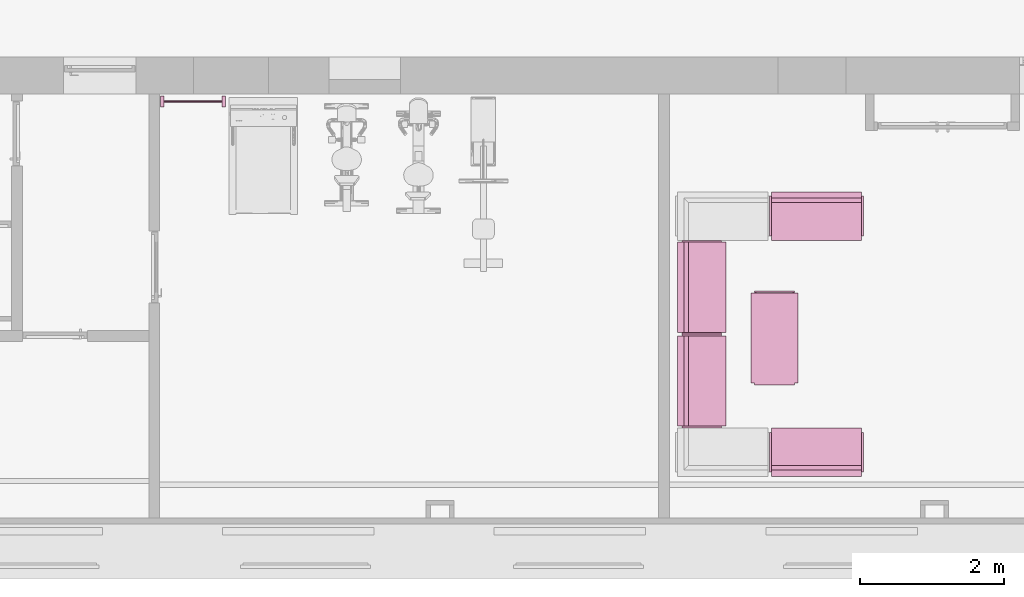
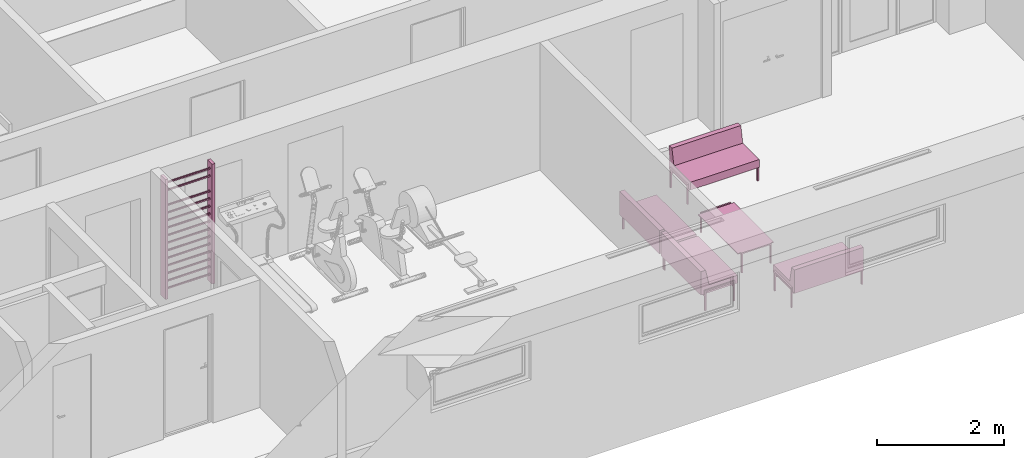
# One storey, part 19 of 23: 6 furnishings.
"""IFC2X3 building model written with IfcOpenShell, lengths in millimetres."""

import ifcopenshell
import ifcopenshell.guid

model = None  # the IFC model being written
_history = None  # IfcOwnerHistory: only IFC2X3 demands one
_inside = {}  # id of a spatial element -> (the spatial element, [elements in it])
_under = {}  # id of a project, library or spatial element -> (it, [spatial elements below it])
_declared = {}  # id of a project -> (the project, [libraries it declares])
_typed = {}  # id of a type object -> (the type object, [elements of that type])
_made_of = {}  # id of a material, layer set ... -> (it, [elements and type objects made of it])


def new_model(schema):
    """Start an empty IFC model of exactly this schema.

    Asked for "IFC4X3", IfcOpenShell would pick the latest addendum, in which some entities
    have other attributes; the version numbers below select the first issue.
    IFC2X3 requires an IfcOwnerHistory on every rooted entity: one is made here for all.
    """
    global model, _history
    if schema == "IFC4X3":
        model = ifcopenshell.file(schema_version=(4, 3, 0, 0))
    else:
        model = ifcopenshell.file(schema=schema)
    _inside.clear()
    _under.clear()
    _declared.clear()
    _typed.clear()
    _made_of.clear()
    _history = None
    if model.schema == "IFC2X3":
        org = make("IfcOrganization", Name="unknown")
        user = make(
            "IfcPersonAndOrganization",
            ThePerson=make("IfcPerson", FamilyName="unknown"),
            TheOrganization=org,
        )
        app = make(
            "IfcApplication",
            ApplicationDeveloper=org,
            Version="unknown",
            ApplicationFullName="unknown",
            ApplicationIdentifier="unknown",
        )
        _history = make(
            "IfcOwnerHistory",
            OwningUser=user,
            OwningApplication=app,
            ChangeAction="ADDED",
            CreationDate=0,
        )
    return model


def make(cls, **values):
    """One entity of the class cls with the attributes given. An attribute that is None is left unset."""
    return model.create_entity(
        cls, **{name: value for name, value in values.items() if value is not None}
    )


def entity(cls, *values):
    """Any entity or typed value of the class cls, its attributes in the order of the schema. None: left unset."""
    e = model.create_entity(cls)
    for i, value in enumerate(values):
        if value is not None:
            e[i] = value
    return e


def rooted(cls, **values):
    """An entity with a GlobalId (a new one), such as an element, a storey or a relation."""
    return make(cls, GlobalId=ifcopenshell.guid.new(), OwnerHistory=_history, **values)


def si_unit(unit_type, name, prefix=None):
    """IfcSIUnit, for example si_unit("LENGTHUNIT", "METRE", prefix="MILLI")."""
    return make("IfcSIUnit", UnitType=unit_type, Prefix=prefix, Name=name)


def converted_unit(unit_type, name, factor, base, dimensions=None, offset=None):
    """IfcConversionBasedUnit, such as the inch: factor (a typed value) times the base unit."""
    return make(
        "IfcConversionBasedUnit"
        if offset is None
        else "IfcConversionBasedUnitWithOffset",
        ConversionOffset=offset,
        Dimensions=None
        if dimensions is None
        else entity("IfcDimensionalExponents", *dimensions),
        UnitType=unit_type,
        Name=name,
        ConversionFactor=make(
            "IfcMeasureWithUnit", ValueComponent=factor, UnitComponent=base
        ),
    )


def derived_unit(unit_type, elements):
    """IfcDerivedUnit: a product of units, each with its exponent."""
    return make(
        "IfcDerivedUnit",
        Elements=[
            make("IfcDerivedUnitElement", Unit=unit, Exponent=power)
            for unit, power in elements
        ],
        UnitType=unit_type,
    )


def assignment(units):
    """IfcUnitAssignment: the units of a project."""
    return None if units is None else make("IfcUnitAssignment", Units=units)


def point(xyz):
    """IfcCartesianPoint."""
    return None if xyz is None else make("IfcCartesianPoint", Coordinates=xyz)


def direction(xyz):
    """IfcDirection."""
    return None if xyz is None else make("IfcDirection", DirectionRatios=xyz)


def frame(location, z_axis=None, x_axis=None):
    """IfcAxis2Placement3D, a coordinate frame: its origin and axes. An axis left out is left unset."""
    return make(
        "IfcAxis2Placement3D",
        Location=point(location),
        Axis=direction(z_axis),
        RefDirection=direction(x_axis),
    )


def frame_2d(location, x_axis=None):
    """IfcAxis2Placement2D, a coordinate frame in the plane: its origin and x axis."""
    return make(
        "IfcAxis2Placement2D", Location=point(location), RefDirection=direction(x_axis)
    )


def origin():
    """The frame at (0, 0, 0) with its axes left unset."""
    return frame((0.0, 0.0, 0.0))


def origin_2d_with_axis():
    """The frame at (0, 0) in the plane with the x axis (1, 0) written out."""
    return frame_2d((0.0, 0.0), x_axis=(1.0, 0.0))


def place(relative_to, where):
    """IfcLocalPlacement: puts the frame where relative to a parent placement (None: the world)."""
    return make(
        "IfcLocalPlacement", PlacementRelTo=relative_to, RelativePlacement=where
    )


def context(
    kind, dimensions, precision=None, world=None, true_north=None, identifier=None
):
    """IfcGeometricRepresentationContext, for example the 3D "Model" context."""
    return make(
        "IfcGeometricRepresentationContext",
        ContextIdentifier=identifier,
        ContextType=kind,
        CoordinateSpaceDimension=dimensions,
        Precision=precision,
        WorldCoordinateSystem=world,
        TrueNorth=true_north,
    )


def subcontext(parent, identifier, kind, view, scale=None):
    """IfcGeometricRepresentationSubContext, for example "Body" below "Model"."""
    return make(
        "IfcGeometricRepresentationSubContext",
        ContextIdentifier=identifier,
        ContextType=kind,
        ParentContext=parent,
        TargetScale=scale,
        TargetView=view,
    )


def project(units=None, contexts=None):
    """IfcProject with its units and contexts."""
    return rooted(
        "IfcProject",
        Name="project",
        RepresentationContexts=contexts,
        UnitsInContext=assignment(units),
    )


def spatial(cls, under=None, at=None, **own):
    """A site, building, storey or space (cls), placed at a placement, below another one or the project."""
    s = rooted(cls, ObjectPlacement=at, **own)
    if under is not None:
        _under.setdefault(under.id(), (under, []))[1].append(s)
    return s


def polyline(points):
    """IfcPolyline through the points."""
    return make("IfcPolyline", Points=[point(p) for p in points])


def circle_curve(where, radius):
    """IfcCircle in the frame where."""
    return make("IfcCircle", Position=where, Radius=radius)


def parameter(value):
    """IfcParameterValue: where a trimmed curve begins or ends, as a parameter of its basis curve."""
    return model.create_entity("IfcParameterValue", value)


def trimmed(basis, trim1, trim2, sense, master):
    """IfcTrimmedCurve: the piece of a basis curve between two trims."""
    return make(
        "IfcTrimmedCurve",
        BasisCurve=basis,
        Trim1=trim1,
        Trim2=trim2,
        SenseAgreement=sense,
        MasterRepresentation=master,
    )


def segment(curve, same_sense, transition):
    """IfcCompositeCurveSegment."""
    return make(
        "IfcCompositeCurveSegment",
        Transition=transition,
        SameSense=same_sense,
        ParentCurve=curve,
    )


def composite_curve(segments, self_intersect=None):
    """IfcCompositeCurve: segments joined end to end."""
    return make("IfcCompositeCurve", Segments=segments, SelfIntersect=self_intersect)


def profile(cls, at=None, kind="AREA", **sizes):
    """A parametric profile (cls). Its sizes go by their IFC names, for example OverallWidth=200.0."""
    return make(cls, ProfileType=kind, Position=at, **sizes)


def rectangle(**sizes):
    """IfcRectangleProfileDef."""
    return profile("IfcRectangleProfileDef", **sizes)


def outline(outer, holes=None, kind="AREA"):
    """IfcArbitraryClosedProfileDef: a profile drawn as a closed curve; with holes, ...WithVoids."""
    if holes is None:
        return make("IfcArbitraryClosedProfileDef", ProfileType=kind, OuterCurve=outer)
    return make(
        "IfcArbitraryProfileDefWithVoids",
        ProfileType=kind,
        OuterCurve=outer,
        InnerCurves=holes,
    )


def extrude(swept, where, along, depth):
    """IfcExtrudedAreaSolid: the profile swept, set in the frame where, extruded along a direction by depth."""
    return make(
        "IfcExtrudedAreaSolid",
        SweptArea=swept,
        Position=where,
        ExtrudedDirection=direction(along),
        Depth=depth,
    )


def shape(context_of_items, identifier, shape_type, items):
    """IfcShapeRepresentation: the items that make up one representation, for example the "Body"."""
    return make(
        "IfcShapeRepresentation",
        ContextOfItems=context_of_items,
        RepresentationIdentifier=identifier,
        RepresentationType=shape_type,
        Items=items,
    )


def source(mapping_origin, context_of_items, identifier, shape_type, items):
    """IfcRepresentationMap: a shape defined once, which mapped items show again and again."""
    return make(
        "IfcRepresentationMap",
        MappingOrigin=mapping_origin,
        MappedRepresentation=shape(context_of_items, identifier, shape_type, items),
    )


def transform(
    local_origin,
    x_axis=None,
    y_axis=None,
    z_axis=None,
    scale=None,
    scale2=None,
    scale3=None,
    uniform=True,
):
    """IfcCartesianTransformationOperator3D, or its non-uniform kind. x_axis, y_axis, z_axis: its Axis1, 2, 3."""
    if uniform:
        return make(
            "IfcCartesianTransformationOperator3D",
            Axis1=direction(x_axis),
            Axis2=direction(y_axis),
            LocalOrigin=point(local_origin),
            Scale=scale,
            Axis3=direction(z_axis),
        )
    return make(
        "IfcCartesianTransformationOperator3DnonUniform",
        Axis1=direction(x_axis),
        Axis2=direction(y_axis),
        LocalOrigin=point(local_origin),
        Scale=scale,
        Axis3=direction(z_axis),
        Scale2=scale2,
        Scale3=scale3,
    )


def mapped(mapping_source, mapping_target):
    """IfcMappedItem: shows the shape of a source again, moved by a transform."""
    return make(
        "IfcMappedItem", MappingSource=mapping_source, MappingTarget=mapping_target
    )


def material(Name=None, Category=None):
    """IfcMaterial."""
    return make("IfcMaterial", Name=Name, Category=Category)


def material_list(materials):
    """IfcMaterialList."""
    return make("IfcMaterialList", Materials=materials)


def made_of(thing, what):
    """Note that an element or type object is made of a material, layer set ...; save() writes the relation."""
    if what is not None:
        _made_of.setdefault(what.id(), (what, []))[1].append(thing)
    return thing


def type_object(cls, material=None, **own):
    """A type object (cls), such as IfcWallType, which elements share."""
    return made_of(rooted(cls, **own), material)


def type_shapes(of_type, sources):
    """Give a type object the sources (RepresentationMaps) that its elements show as mapped items."""
    of_type.RepresentationMaps = sources


def element(
    cls,
    number,
    at=None,
    inside=None,
    cuts=None,
    type_object=None,
    material=None,
    context=None,
    identifier="Body",
    shape_type=None,
    held_by="IfcProductDefinitionShape",
    body=None,
    shapes=None,
    **own,
):
    """One element of the class cls, such as IfcWall. Its Tag is "e" and its number.

    at: its placement. inside: the storey or other place that contains it. cuts: it is an
    opening in that element (IfcRelVoidsElement). A single representation is given by context,
    identifier, shape_type and body (its items); several are given by shapes. held_by: the class
    of the entity that holds the representations. save() writes the other relations.
    """
    e = rooted(cls, Tag="e%d" % number, ObjectPlacement=at, **own)
    if body is not None:
        shapes = [shape(context, identifier, shape_type, body)]
    if shapes is not None:
        e.Representation = make(held_by, Representations=shapes)
    if inside is not None:
        _inside.setdefault(inside.id(), (inside, []))[1].append(e)
    if cuts is not None:
        rooted(
            "IfcRelVoidsElement", RelatingBuildingElement=cuts, RelatedOpeningElement=e
        )
    if type_object is not None:
        _typed.setdefault(type_object.id(), (type_object, []))[1].append(e)
    return made_of(e, material)


def aggregate(whole, parts):
    """IfcRelAggregates: a whole, such as a stair, and the parts it consists of."""
    return rooted("IfcRelAggregates", RelatingObject=whole, RelatedObjects=parts)


def save(model, path):
    """Write the relations noted so far, then the file.

    IfcRelAggregates (storeys below a building ...), IfcRelContainedInSpatialStructure (elements
    in a storey), IfcRelDefinesByType, IfcRelAssociatesMaterial and IfcRelDeclares: one each for
    every whole, place, type object, material and project.
    """
    for whole, parts in _under.values():
        aggregate(whole, parts)
    for where, things in _inside.values():
        rooted(
            "IfcRelContainedInSpatialStructure",
            RelatedElements=things,
            RelatingStructure=where,
        )
    for kind, things in _typed.values():
        rooted("IfcRelDefinesByType", RelatedObjects=things, RelatingType=kind)
    for what, things in _made_of.values():
        rooted("IfcRelAssociatesMaterial", RelatedObjects=things, RelatingMaterial=what)
    for by, libraries in _declared.values():
        rooted("IfcRelDeclares", RelatingContext=by, RelatedDefinitions=libraries)
    model.write(path)


model = new_model("IFC2X3")

# Units and contexts
model_context = context("Model", 3, precision=0.01, world=origin(), true_north=direction((6.12303176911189e-17, 1.0)))
body_context = subcontext(model_context, "Body", "Model", "MODEL_VIEW")
ifc_project = project(units=[si_unit("LENGTHUNIT", "METRE", prefix="MILLI"), si_unit("AREAUNIT", "SQUARE_METRE"), si_unit("VOLUMEUNIT", "CUBIC_METRE"), converted_unit("PLANEANGLEUNIT", "DEGREE", entity("IfcRatioMeasure", 0.0174532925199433), si_unit("PLANEANGLEUNIT", "RADIAN"), dimensions=[0, 0, 0, 0, 0, 0, 0]), si_unit("MASSUNIT", "GRAM", prefix="KILO"), derived_unit("MASSDENSITYUNIT", [(si_unit("MASSUNIT", "GRAM", prefix="KILO"), 1), (si_unit("LENGTHUNIT", "METRE"), -3)]), si_unit("TIMEUNIT", "SECOND"), si_unit("FREQUENCYUNIT", "HERTZ"), si_unit("THERMODYNAMICTEMPERATUREUNIT", "DEGREE_CELSIUS"), derived_unit("THERMALTRANSMITTANCEUNIT", [(si_unit("MASSUNIT", "GRAM", prefix="KILO"), 1), (si_unit("THERMODYNAMICTEMPERATUREUNIT", "KELVIN"), -1), (si_unit("TIMEUNIT", "SECOND"), -3)]), derived_unit("VOLUMETRICFLOWRATEUNIT", [(si_unit("LENGTHUNIT", "METRE"), 3), (si_unit("TIMEUNIT", "SECOND"), -1)]), si_unit("ELECTRICCURRENTUNIT", "AMPERE"), si_unit("ELECTRICVOLTAGEUNIT", "VOLT"), si_unit("POWERUNIT", "WATT"), si_unit("FORCEUNIT", "NEWTON", prefix="KILO"), si_unit("ILLUMINANCEUNIT", "LUX"), si_unit("LUMINOUSFLUXUNIT", "LUMEN"), si_unit("LUMINOUSINTENSITYUNIT", "CANDELA"), derived_unit("USERDEFINED", [(si_unit("MASSUNIT", "GRAM", prefix="KILO"), -1), (si_unit("LENGTHUNIT", "METRE"), -2), (si_unit("TIMEUNIT", "SECOND"), 3), (si_unit("LUMINOUSFLUXUNIT", "LUMEN"), 1)]), derived_unit("LINEARVELOCITYUNIT", [(si_unit("LENGTHUNIT", "METRE"), 1), (si_unit("TIMEUNIT", "SECOND"), -1)]), si_unit("PRESSUREUNIT", "PASCAL"), derived_unit("USERDEFINED", [(si_unit("LENGTHUNIT", "METRE"), -2), (si_unit("MASSUNIT", "GRAM", prefix="KILO"), 1), (si_unit("TIMEUNIT", "SECOND"), -2)]), derived_unit("LINEARFORCEUNIT", [(si_unit("MASSUNIT", "GRAM", prefix="KILO"), 1), (si_unit("LENGTHUNIT", "METRE"), 1), (si_unit("TIMEUNIT", "SECOND"), -2), (si_unit("LENGTHUNIT", "METRE"), -1)]), derived_unit("PLANARFORCEUNIT", [(si_unit("MASSUNIT", "GRAM", prefix="KILO"), 1), (si_unit("LENGTHUNIT", "METRE"), 1), (si_unit("TIMEUNIT", "SECOND"), -2), (si_unit("LENGTHUNIT", "METRE"), -2)])], contexts=[model_context])

# Site, building, storey, space
site_placement = place(None, origin())
site = spatial("IfcSite", under=ifc_project, at=site_placement, Name="Default", CompositionType="ELEMENT")
building_placement = place(site_placement, origin())
building = spatial("IfcBuilding", under=site, at=building_placement, Name="SMA ARH", CompositionType="ELEMENT")
storey_placement = place(building_placement, frame((0.0, 0.0, -2800.0)))
storey = spatial("IfcBuildingStorey", under=building, at=storey_placement, Name="0 Sokkel", CompositionType="ELEMENT", Elevation=-2800.0)
space_1_placement = place(storey_placement, origin())
space_1 = spatial("IfcSpace", under=storey, at=space_1_placement, Name="0-3", CompositionType="ELEMENT", InteriorOrExteriorSpace="INTERNAL")

# Furnishing
furniture_type_1 = type_object("IfcFurnitureType", Name="varbsein 1,00x2.30:varbsein 1,00x2.30")
shared_shape_1 = source(origin(), body_context, "Body", "SweptSolid", [
    extrude(outline(composite_curve([segment(trimmed(circle_curve(frame_2d((0.0, 5.0), x_axis=(1.0, 0.0)), 15.0), [parameter(0.0)], [parameter(90.0000000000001)], True, "PARAMETER"), True, "CONTINUOUS"), segment(trimmed(circle_curve(frame_2d((0.0, 5.0), x_axis=(1.0, 0.0)), 15.0), [parameter(90.0000000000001)], [parameter(180.0)], True, "PARAMETER"), True, "CONTINUOUS"), segment(polyline([(-15.0, 5.0), (-15.0, -5.0)]), True, "CONTINUOUS"), segment(trimmed(circle_curve(frame_2d((0.0, -5.0), x_axis=(1.0, 0.0)), 15.0), [parameter(180.0)], [parameter(269.999999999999)], True, "PARAMETER"), True, "CONTINUOUS"), segment(trimmed(circle_curve(frame_2d((0.0, -5.0), x_axis=(1.0, 0.0)), 15.0), [parameter(270.0)], [parameter(0.0)], True, "PARAMETER"), True, "CONTINUOUS"), segment(polyline([(15.0, -5.0), (15.0, 5.0)]), True, "CONTINUOUS")], self_intersect=False)), frame((50.0, -75.0, 2180.0), z_axis=(1.0, 0.0, 0.0), x_axis=(0.0, -1.0, 0.0)), (0.0, 0.0, 1.0), 800.0),
    extrude(outline(composite_curve([segment(trimmed(circle_curve(frame_2d((0.0, 5.0), x_axis=(1.0, 0.0)), 15.0), [parameter(0.0)], [parameter(90.0000000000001)], True, "PARAMETER"), True, "CONTINUOUS"), segment(trimmed(circle_curve(frame_2d((0.0, 5.0), x_axis=(1.0, 0.0)), 15.0), [parameter(90.0000000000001)], [parameter(180.0)], True, "PARAMETER"), True, "CONTINUOUS"), segment(polyline([(-15.0, 5.0), (-15.0, -5.0)]), True, "CONTINUOUS"), segment(trimmed(circle_curve(frame_2d((0.0, -5.0), x_axis=(1.0, 0.0)), 15.0), [parameter(180.0)], [parameter(269.999999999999)], True, "PARAMETER"), True, "CONTINUOUS"), segment(trimmed(circle_curve(frame_2d((0.0, -5.0), x_axis=(1.0, 0.0)), 15.0), [parameter(270.0)], [parameter(0.0)], True, "PARAMETER"), True, "CONTINUOUS"), segment(polyline([(15.0, -5.0), (15.0, 5.0)]), True, "CONTINUOUS")], self_intersect=False)), frame((50.0, -75.0, 2035.0), z_axis=(1.0, 0.0, 0.0), x_axis=(0.0, -1.0, 0.0)), (0.0, 0.0, 1.0), 800.0),
    extrude(outline(composite_curve([segment(trimmed(circle_curve(frame_2d((0.0, 5.0), x_axis=(1.0, 0.0)), 15.0), [parameter(0.0)], [parameter(90.0000000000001)], True, "PARAMETER"), True, "CONTINUOUS"), segment(trimmed(circle_curve(frame_2d((0.0, 5.0), x_axis=(1.0, 0.0)), 15.0), [parameter(90.0000000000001)], [parameter(180.0)], True, "PARAMETER"), True, "CONTINUOUS"), segment(polyline([(-15.0, 5.0), (-15.0, -5.0)]), True, "CONTINUOUS"), segment(trimmed(circle_curve(frame_2d((0.0, -5.0), x_axis=(1.0, 0.0)), 15.0), [parameter(180.0)], [parameter(269.999999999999)], True, "PARAMETER"), True, "CONTINUOUS"), segment(trimmed(circle_curve(frame_2d((0.0, -5.0), x_axis=(1.0, 0.0)), 15.0), [parameter(270.0)], [parameter(0.0)], True, "PARAMETER"), True, "CONTINUOUS"), segment(polyline([(15.0, -5.0), (15.0, 5.0)]), True, "CONTINUOUS")], self_intersect=False)), frame((50.0, -75.0, 1745.0), z_axis=(1.0, 0.0, 0.0), x_axis=(0.0, -1.0, 0.0)), (0.0, 0.0, 1.0), 800.0),
    extrude(outline(composite_curve([segment(trimmed(circle_curve(frame_2d((0.0, 5.0), x_axis=(1.0, 0.0)), 15.0), [parameter(0.0)], [parameter(90.0000000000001)], True, "PARAMETER"), True, "CONTINUOUS"), segment(trimmed(circle_curve(frame_2d((0.0, 5.0), x_axis=(1.0, 0.0)), 15.0), [parameter(90.0000000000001)], [parameter(180.0)], True, "PARAMETER"), True, "CONTINUOUS"), segment(polyline([(-15.0, 5.0), (-15.0, -5.0)]), True, "CONTINUOUS"), segment(trimmed(circle_curve(frame_2d((0.0, -5.0), x_axis=(1.0, 0.0)), 15.0), [parameter(180.0)], [parameter(269.999999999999)], True, "PARAMETER"), True, "CONTINUOUS"), segment(trimmed(circle_curve(frame_2d((0.0, -5.0), x_axis=(1.0, 0.0)), 15.0), [parameter(270.0)], [parameter(0.0)], True, "PARAMETER"), True, "CONTINUOUS"), segment(polyline([(15.0, -5.0), (15.0, 5.0)]), True, "CONTINUOUS")], self_intersect=False)), frame((50.0, -75.0, 1600.0), z_axis=(1.0, 0.0, 0.0), x_axis=(0.0, -1.0, 0.0)), (0.0, 0.0, 1.0), 800.0),
    extrude(outline(composite_curve([segment(trimmed(circle_curve(frame_2d((0.0, 5.0), x_axis=(1.0, 0.0)), 15.0), [parameter(0.0)], [parameter(90.0000000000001)], True, "PARAMETER"), True, "CONTINUOUS"), segment(trimmed(circle_curve(frame_2d((0.0, 5.0), x_axis=(1.0, 0.0)), 15.0), [parameter(90.0000000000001)], [parameter(180.0)], True, "PARAMETER"), True, "CONTINUOUS"), segment(polyline([(-15.0, 5.0), (-15.0, -5.0)]), True, "CONTINUOUS"), segment(trimmed(circle_curve(frame_2d((0.0, -5.0), x_axis=(1.0, 0.0)), 15.0), [parameter(180.0)], [parameter(269.999999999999)], True, "PARAMETER"), True, "CONTINUOUS"), segment(trimmed(circle_curve(frame_2d((0.0, -5.0), x_axis=(1.0, 0.0)), 15.0), [parameter(270.0)], [parameter(0.0)], True, "PARAMETER"), True, "CONTINUOUS"), segment(polyline([(15.0, -5.0), (15.0, 5.0)]), True, "CONTINUOUS")], self_intersect=False)), frame((50.0, -75.0, 1455.0), z_axis=(1.0, 0.0, 0.0), x_axis=(0.0, -1.0, 0.0)), (0.0, 0.0, 1.0), 800.0),
    extrude(outline(composite_curve([segment(trimmed(circle_curve(frame_2d((0.0, 5.0), x_axis=(1.0, 0.0)), 15.0), [parameter(0.0)], [parameter(90.0000000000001)], True, "PARAMETER"), True, "CONTINUOUS"), segment(trimmed(circle_curve(frame_2d((0.0, 5.0), x_axis=(1.0, 0.0)), 15.0), [parameter(90.0000000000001)], [parameter(180.0)], True, "PARAMETER"), True, "CONTINUOUS"), segment(polyline([(-15.0, 5.0), (-15.0, -5.0)]), True, "CONTINUOUS"), segment(trimmed(circle_curve(frame_2d((0.0, -5.0), x_axis=(1.0, 0.0)), 15.0), [parameter(180.0)], [parameter(269.999999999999)], True, "PARAMETER"), True, "CONTINUOUS"), segment(trimmed(circle_curve(frame_2d((0.0, -5.0), x_axis=(1.0, 0.0)), 15.0), [parameter(270.0)], [parameter(0.0)], True, "PARAMETER"), True, "CONTINUOUS"), segment(polyline([(15.0, -5.0), (15.0, 5.0)]), True, "CONTINUOUS")], self_intersect=False)), frame((50.0, -75.0, 1310.0), z_axis=(1.0, 0.0, 0.0), x_axis=(0.0, -1.0, 0.0)), (0.0, 0.0, 1.0), 800.0),
    extrude(outline(composite_curve([segment(trimmed(circle_curve(frame_2d((0.0, 5.0), x_axis=(1.0, 0.0)), 15.0), [parameter(0.0)], [parameter(90.0000000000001)], True, "PARAMETER"), True, "CONTINUOUS"), segment(trimmed(circle_curve(frame_2d((0.0, 5.0), x_axis=(1.0, 0.0)), 15.0), [parameter(90.0000000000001)], [parameter(180.0)], True, "PARAMETER"), True, "CONTINUOUS"), segment(polyline([(-15.0, 5.0), (-15.0, -5.0)]), True, "CONTINUOUS"), segment(trimmed(circle_curve(frame_2d((0.0, -5.0), x_axis=(1.0, 0.0)), 15.0), [parameter(180.0)], [parameter(269.999999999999)], True, "PARAMETER"), True, "CONTINUOUS"), segment(trimmed(circle_curve(frame_2d((0.0, -5.0), x_axis=(1.0, 0.0)), 15.0), [parameter(270.0)], [parameter(359.999999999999)], True, "PARAMETER"), True, "CONTINUOUS"), segment(polyline([(15.0, -5.0), (15.0, 5.0)]), True, "CONTINUOUS")], self_intersect=False)), frame((50.0, -75.0, 1165.0), z_axis=(1.0, 0.0, 0.0), x_axis=(0.0, -1.0, 0.0)), (0.0, 0.0, 1.0), 800.0),
    extrude(outline(composite_curve([segment(trimmed(circle_curve(frame_2d((0.0, 5.0), x_axis=(1.0, 0.0)), 15.0), [parameter(0.0)], [parameter(90.0000000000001)], True, "PARAMETER"), True, "CONTINUOUS"), segment(trimmed(circle_curve(frame_2d((0.0, 5.0), x_axis=(1.0, 0.0)), 15.0), [parameter(90.0000000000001)], [parameter(180.0)], True, "PARAMETER"), True, "CONTINUOUS"), segment(polyline([(-15.0, 5.0), (-15.0, -5.0)]), True, "CONTINUOUS"), segment(trimmed(circle_curve(frame_2d((0.0, -5.0), x_axis=(1.0, 0.0)), 15.0), [parameter(180.0)], [parameter(269.999999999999)], True, "PARAMETER"), True, "CONTINUOUS"), segment(trimmed(circle_curve(frame_2d((0.0, -5.0), x_axis=(1.0, 0.0)), 15.0), [parameter(270.0)], [parameter(359.999999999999)], True, "PARAMETER"), True, "CONTINUOUS"), segment(polyline([(15.0, -5.0), (15.0, 5.0)]), True, "CONTINUOUS")], self_intersect=False)), frame((50.0, -75.0, 1020.0), z_axis=(1.0, 0.0, 0.0), x_axis=(0.0, -1.0, 0.0)), (0.0, 0.0, 1.0), 800.0),
    extrude(outline(composite_curve([segment(trimmed(circle_curve(frame_2d((0.0, 5.0), x_axis=(1.0, 0.0)), 15.0), [parameter(0.0)], [parameter(90.0000000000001)], True, "PARAMETER"), True, "CONTINUOUS"), segment(trimmed(circle_curve(frame_2d((0.0, 5.0), x_axis=(1.0, 0.0)), 15.0), [parameter(90.0000000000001)], [parameter(180.0)], True, "PARAMETER"), True, "CONTINUOUS"), segment(polyline([(-15.0, 5.0), (-15.0, -5.0)]), True, "CONTINUOUS"), segment(trimmed(circle_curve(frame_2d((0.0, -5.0), x_axis=(1.0, 0.0)), 15.0), [parameter(180.0)], [parameter(269.999999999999)], True, "PARAMETER"), True, "CONTINUOUS"), segment(trimmed(circle_curve(frame_2d((0.0, -5.0), x_axis=(1.0, 0.0)), 15.0), [parameter(270.0)], [parameter(359.999999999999)], True, "PARAMETER"), True, "CONTINUOUS"), segment(polyline([(15.0, -5.0), (15.0, 5.0)]), True, "CONTINUOUS")], self_intersect=False)), frame((50.0, -75.0, 875.0), z_axis=(1.0, 0.0, 0.0), x_axis=(0.0, -1.0, 0.0)), (0.0, 0.0, 1.0), 800.0),
    extrude(outline(composite_curve([segment(trimmed(circle_curve(frame_2d((0.0, 5.0), x_axis=(1.0, 0.0)), 15.0), [parameter(0.0)], [parameter(90.0000000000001)], True, "PARAMETER"), True, "CONTINUOUS"), segment(trimmed(circle_curve(frame_2d((0.0, 5.0), x_axis=(1.0, 0.0)), 15.0), [parameter(90.0000000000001)], [parameter(180.0)], True, "PARAMETER"), True, "CONTINUOUS"), segment(polyline([(-15.0, 5.0), (-15.0, -5.0)]), True, "CONTINUOUS"), segment(trimmed(circle_curve(frame_2d((0.0, -5.0), x_axis=(1.0, 0.0)), 15.0), [parameter(180.0)], [parameter(269.999999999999)], True, "PARAMETER"), True, "CONTINUOUS"), segment(trimmed(circle_curve(frame_2d((0.0, -5.0), x_axis=(1.0, 0.0)), 15.0), [parameter(270.0)], [parameter(359.999999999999)], True, "PARAMETER"), True, "CONTINUOUS"), segment(polyline([(15.0, -5.0), (15.0, 5.0)]), True, "CONTINUOUS")], self_intersect=False)), frame((50.0, -75.0, 730.0), z_axis=(1.0, 0.0, 0.0), x_axis=(0.0, -1.0, 0.0)), (0.0, 0.0, 1.0), 800.0),
    extrude(outline(composite_curve([segment(trimmed(circle_curve(frame_2d((0.0, 5.0), x_axis=(1.0, 0.0)), 15.0), [parameter(0.0)], [parameter(90.0000000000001)], True, "PARAMETER"), True, "CONTINUOUS"), segment(trimmed(circle_curve(frame_2d((0.0, 5.0), x_axis=(1.0, 0.0)), 15.0), [parameter(90.0000000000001)], [parameter(180.0)], True, "PARAMETER"), True, "CONTINUOUS"), segment(polyline([(-15.0, 5.0), (-15.0, -5.0)]), True, "CONTINUOUS"), segment(trimmed(circle_curve(frame_2d((0.0, -5.0), x_axis=(1.0, 0.0)), 15.0), [parameter(180.0)], [parameter(269.999999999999)], True, "PARAMETER"), True, "CONTINUOUS"), segment(trimmed(circle_curve(frame_2d((0.0, -5.0), x_axis=(1.0, 0.0)), 15.0), [parameter(270.0)], [parameter(360.0)], True, "PARAMETER"), True, "CONTINUOUS"), segment(polyline([(15.0, -5.0), (15.0, 5.0)]), True, "CONTINUOUS")], self_intersect=False)), frame((50.0, -75.0, 585.0), z_axis=(1.0, 0.0, 0.0), x_axis=(0.0, -1.0, 0.0)), (0.0, 0.0, 1.0), 800.0),
    extrude(outline(composite_curve([segment(trimmed(circle_curve(frame_2d((0.0, 5.0), x_axis=(1.0, 0.0)), 15.0), [parameter(0.0)], [parameter(90.0000000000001)], True, "PARAMETER"), True, "CONTINUOUS"), segment(trimmed(circle_curve(frame_2d((0.0, 5.0), x_axis=(1.0, 0.0)), 15.0), [parameter(90.0000000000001)], [parameter(180.0)], True, "PARAMETER"), True, "CONTINUOUS"), segment(polyline([(-15.0, 5.0), (-15.0, -5.0)]), True, "CONTINUOUS"), segment(trimmed(circle_curve(frame_2d((0.0, -5.0), x_axis=(1.0, 0.0)), 15.0), [parameter(180.0)], [parameter(269.999999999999)], True, "PARAMETER"), True, "CONTINUOUS"), segment(trimmed(circle_curve(frame_2d((0.0, -5.0), x_axis=(1.0, 0.0)), 15.0), [parameter(270.0)], [parameter(360.0)], True, "PARAMETER"), True, "CONTINUOUS"), segment(polyline([(15.0, -5.0), (15.0, 5.0)]), True, "CONTINUOUS")], self_intersect=False)), frame((50.0, -75.0, 440.0), z_axis=(1.0, 0.0, 0.0), x_axis=(0.0, -1.0, 0.0)), (0.0, 0.0, 1.0), 800.0),
    extrude(outline(composite_curve([segment(trimmed(circle_curve(frame_2d((0.0, 5.0), x_axis=(1.0, 0.0)), 15.0), [parameter(0.0)], [parameter(90.0000000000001)], True, "PARAMETER"), True, "CONTINUOUS"), segment(trimmed(circle_curve(frame_2d((0.0, 5.0), x_axis=(1.0, 0.0)), 15.0), [parameter(90.0000000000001)], [parameter(180.0)], True, "PARAMETER"), True, "CONTINUOUS"), segment(polyline([(-15.0, 5.0), (-15.0, -5.0)]), True, "CONTINUOUS"), segment(trimmed(circle_curve(frame_2d((0.0, -5.0), x_axis=(1.0, 0.0)), 15.0), [parameter(180.0)], [parameter(269.999999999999)], True, "PARAMETER"), True, "CONTINUOUS"), segment(trimmed(circle_curve(frame_2d((0.0, -5.0), x_axis=(1.0, 0.0)), 15.0), [parameter(270.0)], [parameter(360.0)], True, "PARAMETER"), True, "CONTINUOUS"), segment(polyline([(15.0, -5.0), (15.0, 5.0)]), True, "CONTINUOUS")], self_intersect=False)), frame((50.0, -75.0, 295.0), z_axis=(1.0, 0.0, 0.0), x_axis=(0.0, -1.0, 0.0)), (0.0, 0.0, 1.0), 800.0),
    extrude(outline(composite_curve([segment(trimmed(circle_curve(frame_2d((0.0, 5.0), x_axis=(1.0, 0.0)), 15.0), [parameter(0.0)], [parameter(90.0000000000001)], True, "PARAMETER"), True, "CONTINUOUS"), segment(trimmed(circle_curve(frame_2d((0.0, 5.0), x_axis=(1.0, 0.0)), 15.0), [parameter(90.0000000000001)], [parameter(180.0)], True, "PARAMETER"), True, "CONTINUOUS"), segment(polyline([(-15.0, 5.0), (-15.0, -5.0)]), True, "CONTINUOUS"), segment(trimmed(circle_curve(frame_2d((0.0, -5.0), x_axis=(1.0, 0.0)), 15.0), [parameter(180.0)], [parameter(269.999999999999)], True, "PARAMETER"), True, "CONTINUOUS"), segment(trimmed(circle_curve(frame_2d((0.0, -5.0), x_axis=(1.0, 0.0)), 15.0), [parameter(270.0)], [parameter(360.0)], True, "PARAMETER"), True, "CONTINUOUS"), segment(polyline([(15.0, -5.0), (15.0, 5.0)]), True, "CONTINUOUS")], self_intersect=False)), frame((50.0, -75.0, 150.0), z_axis=(1.0, 0.0, 0.0), x_axis=(0.0, -1.0, 0.0)), (0.0, 0.0, 1.0), 800.0),
    extrude(rectangle(XDim=150.0, YDim=50.0, at=origin_2d_with_axis()), frame((875.0, -75.0, 0.0), z_axis=(0.0, 0.0, 1.0), x_axis=(0.0, 1.0, 0.0)), (0.0, 0.0, 1.0), 2300.0),
    extrude(rectangle(XDim=150.0, YDim=50.0, at=origin_2d_with_axis()), frame((25.0, -75.0, 0.0), z_axis=(0.0, 0.0, 1.0), x_axis=(0.0, 1.0, 0.0)), (0.0, 0.0, 1.0), 2300.0),
])
type_shapes(furniture_type_1, [shared_shape_1])
furnishing_1_placement = place(space_1_placement, frame((16362.4915141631, 5830.0, 40.0), z_axis=(0.0, 0.0, 1.0), x_axis=(-1.0, 0.0, 0.0)))
element("IfcFurnishingElement", 1, at=furnishing_1_placement, inside=space_1, type_object=furniture_type_1, Name="varbsein 1,00x2.30:varbsein 1,00x2.30", ObjectType="varbsein 1,00x2.30:varbsein 1,00x2.30", context=body_context, shape_type="MappedRepresentation", body=[
    mapped(shared_shape_1, transform((0.0, 0.0, 0.0), scale=1.0)),
])

# Space
space_2_placement = place(storey_placement, origin())
space_2 = spatial("IfcSpace", under=storey, at=space_2_placement, Name="0-2", CompositionType="ELEMENT", InteriorOrExteriorSpace="INTERNAL")

# Furnishings
ifc_material_1 = material(Name="Laminate, Ivory, Matte")
ifc_material_2 = material(Name="__Metal Tumehall")
ifc_material_list_1 = material_list([ifc_material_1, ifc_material_2])
furniture_type_2 = type_object("IfcFurnitureType", Name="ZED2.dwg:ZED2.dwg", material=ifc_material_list_1)
shared_shape_2 = source(origin(), body_context, "Body", "SweptSolid", [
    extrude(outline(polyline([(-183.749999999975, -275.0), (196.250000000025, -275.0), (196.249999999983, 275.0), (-183.750000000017, 275.0), (-183.750000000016, 250.0), (171.24999999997, 250.0), (171.250000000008, -250.0), (-183.749999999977, -250.0), (-183.749999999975, -275.0)])), frame((622.566902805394, 5.85259477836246, 183.749999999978), z_axis=(1.0, 0.0, 0.0), x_axis=(0.0, 0.0, 1.0)), (0.0, 0.0, 1.0), 25.0),
    extrude(outline(polyline([(-183.749999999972, -275.0), (196.250000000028, -275.0), (196.249999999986, 275.0), (-183.750000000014, 275.0), (-183.750000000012, 250.0), (171.249999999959, 250.0), (171.249999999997, -250.0), (-183.749999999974, -250.0), (-183.749999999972, -275.0)])), frame((-652.433097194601, 5.85259477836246, 183.749999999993), z_axis=(1.0, 0.0, 0.0), x_axis=(0.0, 0.0, 1.0)), (0.0, 0.0, 1.0), 25.000000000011),
    extrude(rectangle(XDim=25.0, YDim=1250.0, at=origin_2d_with_axis()), frame((-2.43309719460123, -256.647405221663, 257.0), z_axis=(0.0, 0.0, 1.0), x_axis=(0.0, 1.0, 0.0)), (0.0, 0.0, 1.0), 25.0000000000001),
    extrude(rectangle(XDim=24.9999999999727, YDim=1250.0, at=frame_2d((6.80255851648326e-12, 0.0), x_axis=(1.0, 0.0))), frame((-2.43309719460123, 268.352594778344, 257.0), z_axis=(0.0, 0.0, 1.0), x_axis=(0.0, -1.0, 0.0)), (0.0, 0.0, 1.0), 25.0000000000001),
    extrude(rectangle(XDim=500.000000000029, YDim=25.0, at=origin_2d_with_axis()), frame((-2.43309719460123, 5.85259477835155, 257.0), z_axis=(0.0, 0.0, 1.0), x_axis=(0.0, 1.0, 0.0)), (0.0, 0.0, 1.0), 25.0),
    extrude(outline(polyline([(-210.0, -77.400000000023), (240.0, -77.400000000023), (240.0, 9.59999999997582), (-60.0, 72.6000000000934), (-210.0, 72.599999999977), (-210.0, -77.400000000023)])), frame((-627.433097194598, 263.452594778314, 510.0), z_axis=(1.0, 0.0, 0.0), x_axis=(0.0, 0.0, 1.0)), (0.0, 0.0, 1.0), 1250.0),
    extrude(rectangle(XDim=520.0, YDim=1250.0, at=origin_2d_with_axis()), frame((-2.43309719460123, -69.147405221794, 300.0), z_axis=(0.0, 0.0, 1.0), x_axis=(0.0, 1.0, 0.0)), (0.0, 0.0, 1.0), 150.0),
    extrude(rectangle(XDim=25.0000000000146, YDim=25.0, at=origin_2d_with_axis()), frame((-639.933097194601, -256.647405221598, -6.0), z_axis=(0.0, 0.0, 1.0), x_axis=(0.0, 1.0, 0.0)), (0.0, 0.0, 1.0), 5.99999999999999),
    extrude(rectangle(XDim=24.9999999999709, YDim=25.0, at=origin_2d_with_axis()), frame((-639.933097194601, 268.352594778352, -6.0), z_axis=(0.0, 0.0, 1.0), x_axis=(0.0, 1.0, 0.0)), (0.0, 0.0, 1.0), 5.99999999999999),
    extrude(rectangle(XDim=25.0000000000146, YDim=25.0, at=origin_2d_with_axis()), frame((635.066902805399, -256.647405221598, -6.0), z_axis=(0.0, 0.0, 1.0), x_axis=(0.0, 1.0, 0.0)), (0.0, 0.0, 1.0), 5.99999999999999),
    extrude(rectangle(XDim=24.9999999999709, YDim=25.0, at=origin_2d_with_axis()), frame((635.066902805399, 268.352594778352, -6.0), z_axis=(0.0, 0.0, 1.0), x_axis=(0.0, 1.0, 0.0)), (0.0, 0.0, 1.0), 5.99999999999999),
])
type_shapes(furniture_type_2, [shared_shape_2])
for number, where, z_axis, x_axis in (
    (2, (22965.0170704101, 3334.74188560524, 0.0), (0.0, 0.0, 1.0), (0.0, 1.0, 0.0)),
    (3, (24546.7313784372, 1053.16138318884, 0.0), (0.0, 0.0, 1.0), (-1.0, 0.0, 0.0)),
):
    element("IfcFurnishingElement", number, at=place(space_2_placement, frame(where, z_axis=z_axis, x_axis=x_axis)), inside=space_2, type_object=furniture_type_2, Name="ZED2.dwg:ZED2.dwg", ObjectType="ZED2.dwg:ZED2.dwg", context=body_context, shape_type="MappedRepresentation", body=[
        mapped(shared_shape_2, transform((0.0, 0.0, 0.0), scale=1.0)),
    ])
ifc_material_list_2 = material_list([ifc_material_1, ifc_material_2])
furniture_type_3 = type_object("IfcFurnitureType", Name="ZED2.dwg:ZED2.dwg", material=ifc_material_list_2)
shared_shape_3 = source(origin(), body_context, "Body", "SweptSolid", [
    extrude(outline(polyline([(-275.0, -183.749999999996), (-250.0, -183.749999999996), (-250.0, 171.24999999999), (250.0, 171.249999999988), (250.0, -183.749999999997), (275.0, -183.749999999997), (275.0, 196.250000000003), (-275.0, 196.250000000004), (-275.0, -183.749999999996)])), frame((622.566902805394, -5.85259477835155, 183.749999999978), z_axis=(1.0, 0.0, 0.0), x_axis=(0.0, 1.0, 0.0)), (0.0, 0.0, 1.0), 25.0),
    extrude(outline(polyline([(-275.0, -183.749999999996), (-250.0, -183.749999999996), (-250.0, 171.249999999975), (250.0, 171.250000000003), (250.0, -183.749999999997), (275.0, -183.749999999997), (275.0, 196.250000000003), (-275.0, 196.250000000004), (-275.0, -183.749999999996)])), frame((-652.433097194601, -5.85259477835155, 183.749999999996), z_axis=(1.0, 0.0, 0.0), x_axis=(0.0, 1.0, 0.0)), (0.0, 0.0, 1.0), 25.000000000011),
    extrude(rectangle(XDim=1250.0, YDim=25.0, at=origin_2d_with_axis()), frame((-2.43309719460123, 256.647405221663, 257.0), z_axis=(0.0, 0.0, 1.0), x_axis=(-1.0, 0.0, 0.0)), (0.0, 0.0, 1.0), 25.0000000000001),
    extrude(rectangle(XDim=1250.0, YDim=25.0, at=frame_2d((0.0, -6.83542111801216e-12), x_axis=(1.0, 0.0))), frame((-2.43309719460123, -268.352594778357, 257.0)), (0.0, 0.0, 1.0), 25.0000000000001),
    extrude(rectangle(XDim=25.0, YDim=500.000000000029, at=origin_2d_with_axis()), frame((-2.43309719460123, -5.85259477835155, 257.0), z_axis=(0.0, 0.0, 1.0), x_axis=(-1.0, 0.0, 0.0)), (0.0, 0.0, 1.0), 25.0),
    extrude(outline(polyline([(-77.4000000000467, -210.0), (72.6000000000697, -210.0), (72.6000000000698, -60.0), (9.59999999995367, 240.0), (-77.4000000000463, 240.0), (-77.4000000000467, -210.0)])), frame((-627.433097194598, -263.45259477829, 510.0), z_axis=(1.0, 0.0, 0.0), x_axis=(0.0, 1.0, 0.0)), (0.0, 0.0, 1.0), 1250.0),
    extrude(rectangle(XDim=1250.0, YDim=520.0, at=origin_2d_with_axis()), frame((-2.43309719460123, 69.1474052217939, 300.0), z_axis=(0.0, 0.0, 1.0), x_axis=(-1.0, 0.0, 0.0)), (0.0, 0.0, 1.0), 150.0),
    extrude(rectangle(XDim=25.0, YDim=25.0000000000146, at=frame_2d((0.0, 3.37507799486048e-14), x_axis=(1.0, 0.0))), frame((-639.933097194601, 256.647405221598, -6.0), z_axis=(0.0, 0.0, 1.0), x_axis=(-1.0, 0.0, 0.0)), (0.0, 0.0, 1.0), 5.99999999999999),
    extrude(rectangle(XDim=25.0, YDim=25.0000000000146, at=origin_2d_with_axis()), frame((-639.933097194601, -268.352594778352, -6.0), z_axis=(0.0, 0.0, 1.0), x_axis=(-1.0, 0.0, 0.0)), (0.0, 0.0, 1.0), 5.99999999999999),
    extrude(rectangle(XDim=25.0, YDim=25.0000000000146, at=frame_2d((0.0, 3.37507799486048e-14), x_axis=(1.0, 0.0))), frame((635.066902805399, 256.647405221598, -6.0), z_axis=(0.0, 0.0, 1.0), x_axis=(-1.0, 0.0, 0.0)), (0.0, 0.0, 1.0), 5.99999999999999),
    extrude(rectangle(XDim=25.0, YDim=25.0000000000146, at=origin_2d_with_axis()), frame((635.066902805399, -268.352594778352, -6.0), z_axis=(0.0, 0.0, 1.0), x_axis=(-1.0, 0.0, 0.0)), (0.0, 0.0, 1.0), 5.99999999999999),
])
type_shapes(furniture_type_3, [shared_shape_3])
for number, where, z_axis, x_axis in (
    (4, (22965.0170704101, 2029.87569121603, 0.0), (0.0, 0.0, 1.0), (0.0, -1.0, 0.0)),
    (5, (24546.7313784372, 4311.45619363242, 0.0), (0.0, 0.0, 1.0), (-1.0, 0.0, 0.0)),
):
    element("IfcFurnishingElement", number, at=place(space_2_placement, frame(where, z_axis=z_axis, x_axis=x_axis)), inside=space_2, type_object=furniture_type_3, Name="ZED2.dwg:ZED2.dwg", ObjectType="ZED2.dwg:ZED2.dwg", context=body_context, shape_type="MappedRepresentation", body=[
        mapped(shared_shape_3, transform((0.0, 0.0, 0.0), scale=1.0)),
    ])
ifc_material_list_3 = material_list([ifc_material_1, ifc_material_1])
furniture_type_4 = type_object("IfcFurnitureType", Name="ZESP2 ZEETA SIRGE DIIVAN.0001:B korpuse kapp", material=ifc_material_list_3)
shared_shape_4 = source(origin(), body_context, "Body", "SweptSolid", [
    extrude(outline(polyline([(250.0, -183.75), (275.0, -183.75), (275.0, 196.250000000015), (-275.0, 196.250000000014), (-275.0, -183.749999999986), (-250.0, -183.749999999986), (-250.0, 171.24999999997), (250.0, 171.249999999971), (250.0, -183.75)])), frame((-706.373653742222, -12.9204595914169, 189.749998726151), z_axis=(1.0, 0.0, 0.0), x_axis=(0.0, 1.0, 0.0)), (0.0, 0.0, 1.0), 25.0000000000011),
    extrude(rectangle(XDim=25.0000000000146, YDim=25.0000000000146, at=frame_2d((0.0, 3.62021523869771e-12), x_axis=(1.0, 0.0))), frame((-693.873653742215, -275.420459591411, -1.27383293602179e-06), z_axis=(0.0, 0.0, 1.0), x_axis=(-1.0, 0.0, 0.0)), (0.0, 0.0, 1.0), 6.0),
    extrude(rectangle(XDim=25.0, YDim=25.0000000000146, at=frame_2d((0.0, -3.37507799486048e-14), x_axis=(1.0, 0.0))), frame((-693.873653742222, 249.579540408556, -1.27384748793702e-06), z_axis=(0.0, 0.0, 1.0), x_axis=(-1.0, 0.0, 0.0)), (0.0, 0.0, 1.0), 6.0),
    extrude(outline(polyline([(250.0, -183.749999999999), (275.0, -183.749999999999), (275.0, 196.250000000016), (-275.0, 196.250000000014), (-275.0, -183.749999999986), (-250.0, -183.749999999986), (-250.0, 171.24999999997), (250.0, 171.249999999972), (250.0, -183.749999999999)])), frame((568.626346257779, -12.9204595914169, 189.749998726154), z_axis=(1.0, 0.0, 0.0), x_axis=(0.0, 1.0, 0.0)), (0.0, 0.0, 1.0), 25.0),
    extrude(rectangle(XDim=25.0000000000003, YDim=25.0000000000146, at=frame_2d((0.0, 3.62021523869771e-12), x_axis=(1.0, 0.0))), frame((581.126346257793, -275.420459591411, -1.27383293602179e-06), z_axis=(0.0, 0.0, 1.0), x_axis=(-1.0, 0.0, 0.0)), (0.0, 0.0, 1.0), 6.0),
    extrude(rectangle(XDim=24.9999999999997, YDim=25.0000000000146, at=frame_2d((6.83897383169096e-14, -3.37507799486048e-14), x_axis=(1.0, 0.0))), frame((581.126346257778, 249.579540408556, -1.27384748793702e-06), z_axis=(0.0, 0.0, 1.0), x_axis=(-1.0, 0.0, 0.0)), (0.0, 0.0, 1.0), 6.0),
    extrude(rectangle(XDim=1250.0, YDim=25.0, at=origin_2d_with_axis()), frame((-56.3736537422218, 249.579540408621, 335.999998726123), z_axis=(0.0, 0.0, 1.0), x_axis=(-1.0, 0.0, 0.0)), (0.0, 0.0, 1.0), 25.0000000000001),
    extrude(rectangle(XDim=1250.0, YDim=25.0, at=origin_2d_with_axis()), frame((-56.3736537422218, -275.420459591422, 335.999998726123)), (0.0, 0.0, 1.0), 25.0000000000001),
    extrude(rectangle(XDim=1246.0, YDim=650.0, at=frame_2d((1.13686837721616e-13, 2.8421709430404e-14), x_axis=(1.0, 0.0))), frame((-56.3736537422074, -12.9204595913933, 360.999998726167), z_axis=(0.0, 0.0, 1.0), x_axis=(-1.0, 0.0, 0.0)), (0.0, 0.0, 1.0), 16.0),
])
type_shapes(furniture_type_4, [shared_shape_4])
furnishing_2_placement = place(space_2_placement, frame((23980.0, 2573.83092865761, 0.0), z_axis=(0.0, 0.0, 1.0), x_axis=(0.0, -1.0, 0.0)))
element("IfcFurnishingElement", 6, at=furnishing_2_placement, inside=space_2, type_object=furniture_type_4, Name="ZESP2 ZEETA SIRGE DIIVAN.0001:B korpuse kapp", ObjectType="ZESP2 ZEETA SIRGE DIIVAN.0001:B korpuse kapp", context=body_context, shape_type="MappedRepresentation", body=[
    mapped(shared_shape_4, transform((0.0, 0.0, 0.0), scale=1.0)),
])

save(model, "model.ifc")
